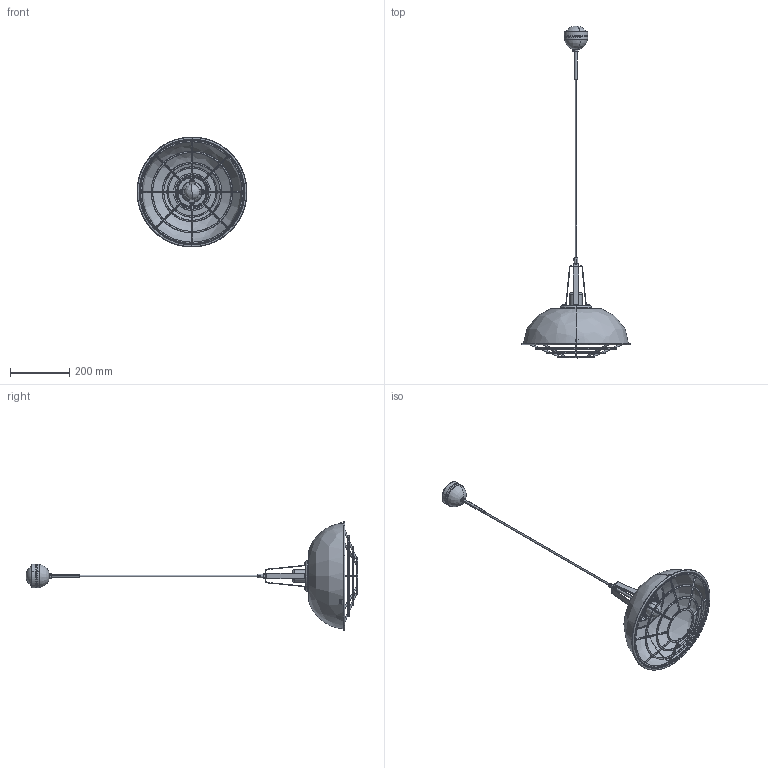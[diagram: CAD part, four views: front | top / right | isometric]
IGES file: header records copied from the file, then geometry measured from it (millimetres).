
Start section: SolidWorks IGES file using analytic representation for surfaces
Global section: file name: E:\3D lampy\Guard\Guard.IGS; native system: SolidWorks 2016; preprocessor: SolidWorks 2016; author: Asia; date: 161005.103020; units: millimetre
Bounding box: 370.27 x 1117.75 x 370.27 mm (x, y, z)
Surface area: 548643.7 mm2 (no closed solid volume)
Topology: 0 solids, 0 shells, 908 faces, 11524 edges, 11493 vertices
Faces by surface type: bspline 462, revolution 446
